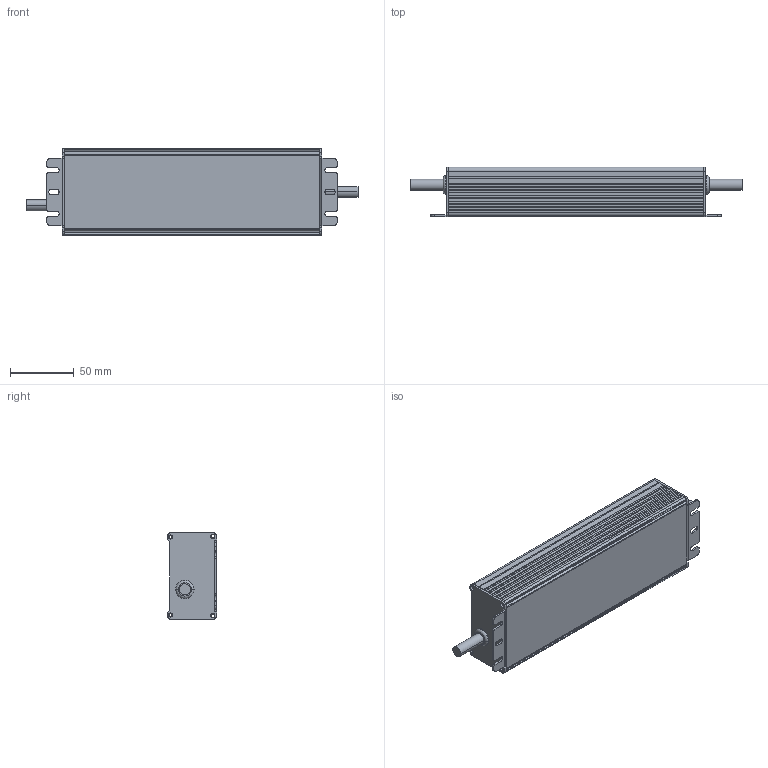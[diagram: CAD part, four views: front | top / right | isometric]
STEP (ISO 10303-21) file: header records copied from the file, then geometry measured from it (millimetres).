
FILE_DESCRIPTION((''),'2;1');
FILE_NAME('HLG-150_ASM','2023-11-01T09:37:30',('shalinice'),(''),'CREO PARAMETRIC BY PTC INC, 2017110','CREO PARAMETRIC BY PTC INC, 2017110','');
FILE_SCHEMA(('AUTOMOTIVE_DESIGN { 1 0 10303 214 1 1 1 1 }'));
Length unit declared in the file: millimetre
Products named in the file (7): 994B-D; 994D-T; 994LR-R; 994A-R; RING1; RING3; HLG-150_ASM
Assembly tree (6 placements, depth 2):
  HLG-150_ASM
    994B-D
    994D-T
    994LR-R
    994A-R
    RING1
    RING3
Bounding box: 260.8 x 38.8 x 68 mm (x, y, z)
Volume: 97975 mm3; surface area: 109862.2 mm2
Topology: 6 solids, 6 shells, 333 faces, 897 edges, 590 vertices
Faces by surface type: plane 189, cylinder 136, torus 8
Entity records: 13223 total; most frequent: DIRECTION 1877, CARTESIAN_POINT 1852, ORIENTED_EDGE 1794, EDGE_CURVE 897, AXIS2_PLACEMENT_3D 634, VECTOR 609, LINE 609, VERTEX_POINT 590
